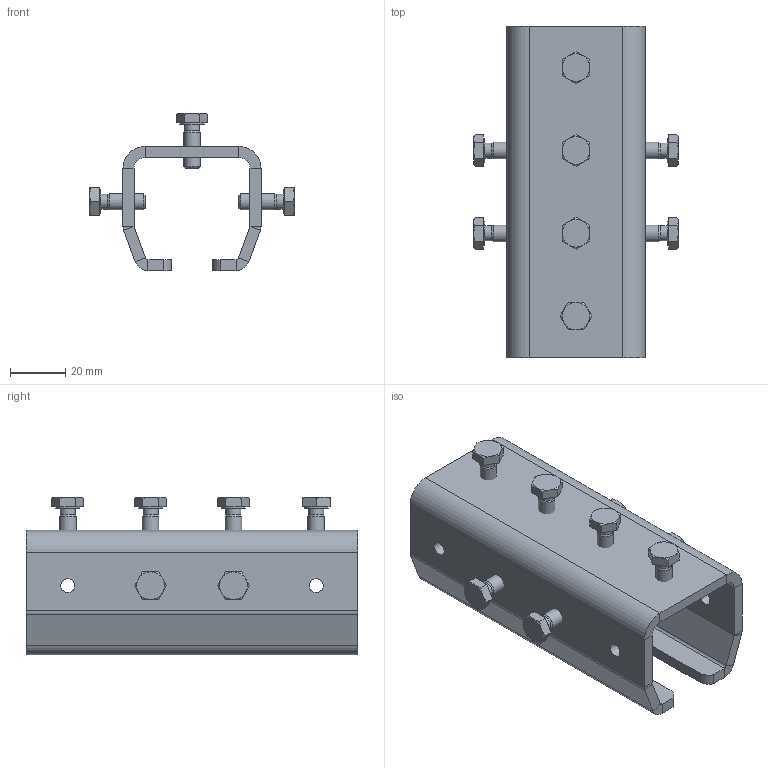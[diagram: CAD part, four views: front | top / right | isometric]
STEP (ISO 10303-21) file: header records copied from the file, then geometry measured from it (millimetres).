
FILE_DESCRIPTION(/* description */ ('Muffe Nr.1_lang '),/* implementation_level */ '2;1');
FILE_NAME(/* name */ 'Q:\sge-ma\Produktmanagement-STB\STB\Workspace\stp\010335110.stp',/* time_stamp */ '2016-07-13T12:56:26+02:00',/* author */ ('avschreier'),/* organization */ (''),/* preprocessor_version */ 'ST-DEVELOPER v16.1',/* originating_system */ 'Autodesk Inventor 2016',/* authorisation */ '');
FILE_SCHEMA (('AUTOMOTIVE_DESIGN { 1 0 10303 214 3 1 1 }'));
Length unit declared in the file: millimetre
Products named in the file (3): 337000118; DIN_EN_ISO_4017-M6x16_en; 010335110
Assembly tree (9 placements, depth 2):
  010335110
    337000118
    DIN_EN_ISO_4017-M6x16_en  x8
Bounding box: 74 x 120 x 57 mm (x, y, z)
Volume: 74559.8 mm3; surface area: 41841.5 mm2
Topology: 9 solids, 9 shells, 238 faces, 500 edges, 296 vertices
Faces by surface type: plane 122, cone 64, cylinder 52
Full cylindrical faces by diameter (mm): 4.917 x8, 5 x4, 5.459 x8, 6 x8, 8.7 x8
Entity records: 2504 total; most frequent: DIRECTION 444, CARTESIAN_POINT 421, ORIENTED_EDGE 362, EDGE_CURVE 181, AXIS2_PLACEMENT_3D 172, EDGE_LOOP 134, VERTEX_POINT 113, LINE 100
